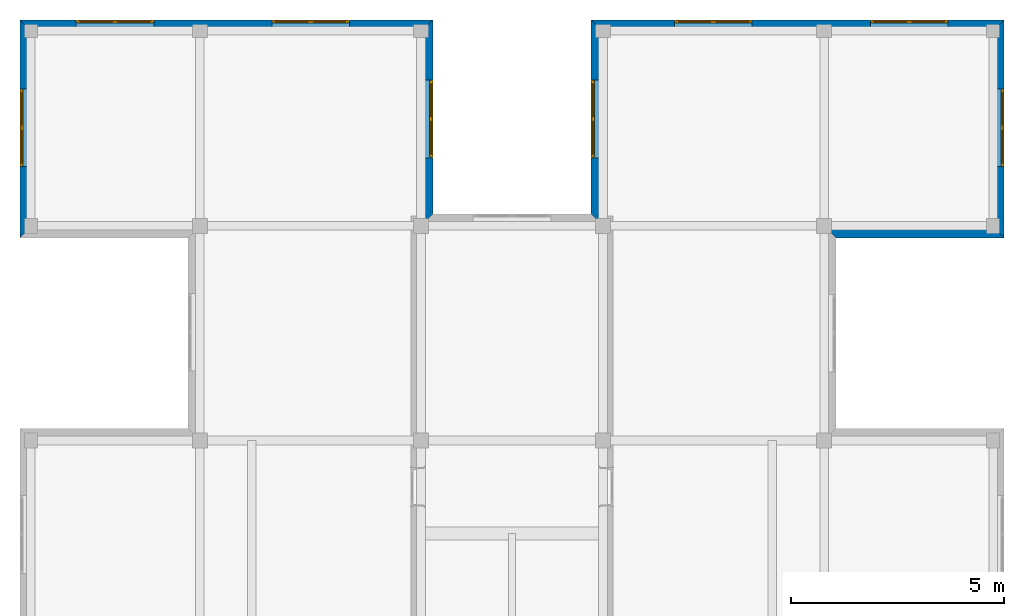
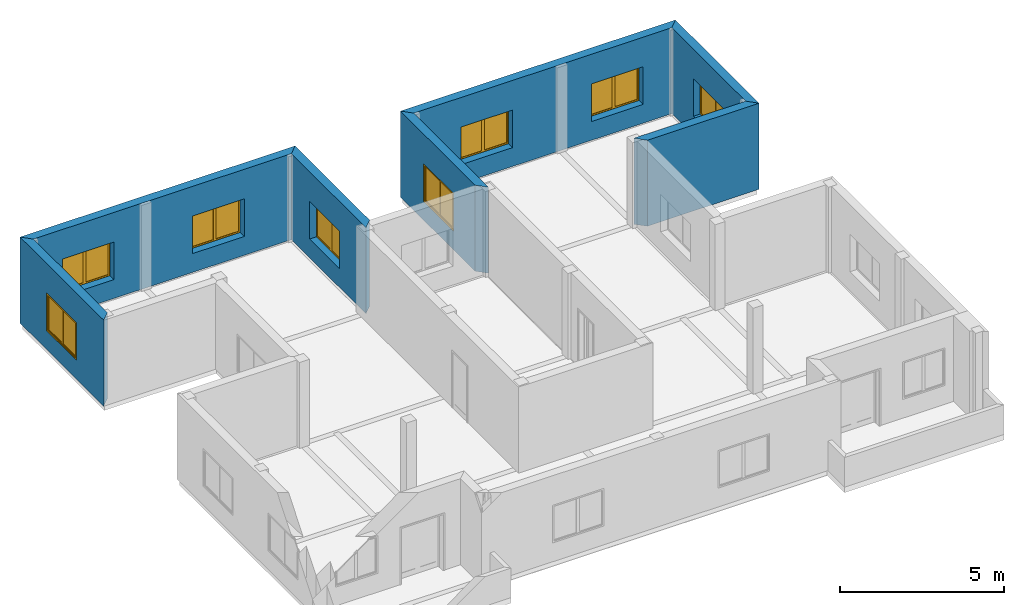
# One storey, part 6 of 6: 8 windows, 7 walls, 8 openings.
"""IFC2X3 building model written with IfcOpenShell, lengths in millimetres."""

import ifcopenshell
import ifcopenshell.guid

model = None  # the IFC model being written
_history = None  # IfcOwnerHistory: only IFC2X3 demands one
_inside = {}  # id of a spatial element -> (the spatial element, [elements in it])
_under = {}  # id of a project, library or spatial element -> (it, [spatial elements below it])
_declared = {}  # id of a project -> (the project, [libraries it declares])
_typed = {}  # id of a type object -> (the type object, [elements of that type])
_made_of = {}  # id of a material, layer set ... -> (it, [elements and type objects made of it])


def new_model(schema):
    """Start an empty IFC model of exactly this schema.

    Asked for "IFC4X3", IfcOpenShell would pick the latest addendum, in which some entities
    have other attributes; the version numbers below select the first issue.
    IFC2X3 requires an IfcOwnerHistory on every rooted entity: one is made here for all.
    """
    global model, _history
    if schema == "IFC4X3":
        model = ifcopenshell.file(schema_version=(4, 3, 0, 0))
    else:
        model = ifcopenshell.file(schema=schema)
    _inside.clear()
    _under.clear()
    _declared.clear()
    _typed.clear()
    _made_of.clear()
    _history = None
    if model.schema == "IFC2X3":
        org = make("IfcOrganization", Name="unknown")
        user = make(
            "IfcPersonAndOrganization",
            ThePerson=make("IfcPerson", FamilyName="unknown"),
            TheOrganization=org,
        )
        app = make(
            "IfcApplication",
            ApplicationDeveloper=org,
            Version="unknown",
            ApplicationFullName="unknown",
            ApplicationIdentifier="unknown",
        )
        _history = make(
            "IfcOwnerHistory",
            OwningUser=user,
            OwningApplication=app,
            ChangeAction="ADDED",
            CreationDate=0,
        )
    return model


def make(cls, **values):
    """One entity of the class cls with the attributes given. An attribute that is None is left unset."""
    return model.create_entity(
        cls, **{name: value for name, value in values.items() if value is not None}
    )


def entity(cls, *values):
    """Any entity or typed value of the class cls, its attributes in the order of the schema. None: left unset."""
    e = model.create_entity(cls)
    for i, value in enumerate(values):
        if value is not None:
            e[i] = value
    return e


def rooted(cls, **values):
    """An entity with a GlobalId (a new one), such as an element, a storey or a relation."""
    return make(cls, GlobalId=ifcopenshell.guid.new(), OwnerHistory=_history, **values)


def si_unit(unit_type, name, prefix=None):
    """IfcSIUnit, for example si_unit("LENGTHUNIT", "METRE", prefix="MILLI")."""
    return make("IfcSIUnit", UnitType=unit_type, Prefix=prefix, Name=name)


def converted_unit(unit_type, name, factor, base, dimensions=None, offset=None):
    """IfcConversionBasedUnit, such as the inch: factor (a typed value) times the base unit."""
    return make(
        "IfcConversionBasedUnit"
        if offset is None
        else "IfcConversionBasedUnitWithOffset",
        ConversionOffset=offset,
        Dimensions=None
        if dimensions is None
        else entity("IfcDimensionalExponents", *dimensions),
        UnitType=unit_type,
        Name=name,
        ConversionFactor=make(
            "IfcMeasureWithUnit", ValueComponent=factor, UnitComponent=base
        ),
    )


def assignment(units):
    """IfcUnitAssignment: the units of a project."""
    return None if units is None else make("IfcUnitAssignment", Units=units)


def point(xyz):
    """IfcCartesianPoint."""
    return None if xyz is None else make("IfcCartesianPoint", Coordinates=xyz)


def direction(xyz):
    """IfcDirection."""
    return None if xyz is None else make("IfcDirection", DirectionRatios=xyz)


def frame(location, z_axis=None, x_axis=None):
    """IfcAxis2Placement3D, a coordinate frame: its origin and axes. An axis left out is left unset."""
    return make(
        "IfcAxis2Placement3D",
        Location=point(location),
        Axis=direction(z_axis),
        RefDirection=direction(x_axis),
    )


def frame_2d(location, x_axis=None):
    """IfcAxis2Placement2D, a coordinate frame in the plane: its origin and x axis."""
    return make(
        "IfcAxis2Placement2D", Location=point(location), RefDirection=direction(x_axis)
    )


def origin_with_axes():
    """The frame at (0, 0, 0) with the z axis (0, 0, 1) and the x axis (1, 0, 0) written out."""
    return frame((0.0, 0.0, 0.0), z_axis=(0.0, 0.0, 1.0), x_axis=(1.0, 0.0, 0.0))


def origin_2d_with_axis():
    """The frame at (0, 0) in the plane with the x axis (1, 0) written out."""
    return frame_2d((0.0, 0.0), x_axis=(1.0, 0.0))


def place(relative_to, where):
    """IfcLocalPlacement: puts the frame where relative to a parent placement (None: the world)."""
    return make(
        "IfcLocalPlacement", PlacementRelTo=relative_to, RelativePlacement=where
    )


def context(
    kind, dimensions, precision=None, world=None, true_north=None, identifier=None
):
    """IfcGeometricRepresentationContext, for example the 3D "Model" context."""
    return make(
        "IfcGeometricRepresentationContext",
        ContextIdentifier=identifier,
        ContextType=kind,
        CoordinateSpaceDimension=dimensions,
        Precision=precision,
        WorldCoordinateSystem=world,
        TrueNorth=true_north,
    )


def subcontext(parent, identifier, kind, view, scale=None):
    """IfcGeometricRepresentationSubContext, for example "Body" below "Model"."""
    return make(
        "IfcGeometricRepresentationSubContext",
        ContextIdentifier=identifier,
        ContextType=kind,
        ParentContext=parent,
        TargetScale=scale,
        TargetView=view,
    )


def project(units=None, contexts=None):
    """IfcProject with its units and contexts."""
    return rooted(
        "IfcProject",
        Name="project",
        RepresentationContexts=contexts,
        UnitsInContext=assignment(units),
    )


def spatial(cls, under=None, at=None, **own):
    """A site, building, storey or space (cls), placed at a placement, below another one or the project."""
    s = rooted(cls, ObjectPlacement=at, **own)
    if under is not None:
        _under.setdefault(under.id(), (under, []))[1].append(s)
    return s


def polyline(points):
    """IfcPolyline through the points."""
    return make("IfcPolyline", Points=[point(p) for p in points])


def profile(cls, at=None, kind="AREA", **sizes):
    """A parametric profile (cls). Its sizes go by their IFC names, for example OverallWidth=200.0."""
    return make(cls, ProfileType=kind, Position=at, **sizes)


def rectangle(**sizes):
    """IfcRectangleProfileDef."""
    return profile("IfcRectangleProfileDef", **sizes)


def outline(outer, holes=None, kind="AREA"):
    """IfcArbitraryClosedProfileDef: a profile drawn as a closed curve; with holes, ...WithVoids."""
    if holes is None:
        return make("IfcArbitraryClosedProfileDef", ProfileType=kind, OuterCurve=outer)
    return make(
        "IfcArbitraryProfileDefWithVoids",
        ProfileType=kind,
        OuterCurve=outer,
        InnerCurves=holes,
    )


def extrude(swept, where, along, depth):
    """IfcExtrudedAreaSolid: the profile swept, set in the frame where, extruded along a direction by depth."""
    return make(
        "IfcExtrudedAreaSolid",
        SweptArea=swept,
        Position=where,
        ExtrudedDirection=direction(along),
        Depth=depth,
    )


def faces_of(points, faces, orient=None, outer=None):
    """IfcFace entities. A face is a list of loops; a loop is a list of indices into points, from 0.

    orient and outer hold one flag for each loop. By default every Orientation is true, the
    first loop of a face is its IfcFaceOuterBound and the others are IfcFaceBound.
    """
    made = []
    for i, loops in enumerate(faces):
        bounds = []
        for j, loop in enumerate(loops):
            is_outer = j == 0 if outer is None else outer[i][j]
            bounds.append(
                make(
                    "IfcFaceOuterBound" if is_outer else "IfcFaceBound",
                    Bound=make("IfcPolyLoop", Polygon=[points[k] for k in loop]),
                    Orientation=True if orient is None else orient[i][j],
                )
            )
        made.append(make("IfcFace", Bounds=bounds))
    return made


def faceted_brep(points, faces, orient=None, outer=None, voids=None):
    """IfcFacetedBrep: a solid bounded by flat faces; with voids (closed shells), ...WithVoids."""
    shared = [point(p) for p in points]
    hull = make("IfcClosedShell", CfsFaces=faces_of(shared, faces, orient, outer))
    if voids is None:
        return make("IfcFacetedBrep", Outer=hull)
    return make(
        "IfcFacetedBrepWithVoids",
        Outer=hull,
        Voids=[
            make(cls, CfsFaces=faces_of(shared, fs, o, b)) for cls, fs, o, b in voids
        ],
    )


def shape(context_of_items, identifier, shape_type, items):
    """IfcShapeRepresentation: the items that make up one representation, for example the "Body"."""
    return make(
        "IfcShapeRepresentation",
        ContextOfItems=context_of_items,
        RepresentationIdentifier=identifier,
        RepresentationType=shape_type,
        Items=items,
    )


def source(mapping_origin, context_of_items, identifier, shape_type, items):
    """IfcRepresentationMap: a shape defined once, which mapped items show again and again."""
    return make(
        "IfcRepresentationMap",
        MappingOrigin=mapping_origin,
        MappedRepresentation=shape(context_of_items, identifier, shape_type, items),
    )


def transform(
    local_origin,
    x_axis=None,
    y_axis=None,
    z_axis=None,
    scale=None,
    scale2=None,
    scale3=None,
    uniform=True,
):
    """IfcCartesianTransformationOperator3D, or its non-uniform kind. x_axis, y_axis, z_axis: its Axis1, 2, 3."""
    if uniform:
        return make(
            "IfcCartesianTransformationOperator3D",
            Axis1=direction(x_axis),
            Axis2=direction(y_axis),
            LocalOrigin=point(local_origin),
            Scale=scale,
            Axis3=direction(z_axis),
        )
    return make(
        "IfcCartesianTransformationOperator3DnonUniform",
        Axis1=direction(x_axis),
        Axis2=direction(y_axis),
        LocalOrigin=point(local_origin),
        Scale=scale,
        Axis3=direction(z_axis),
        Scale2=scale2,
        Scale3=scale3,
    )


def mapped(mapping_source, mapping_target):
    """IfcMappedItem: shows the shape of a source again, moved by a transform."""
    return make(
        "IfcMappedItem", MappingSource=mapping_source, MappingTarget=mapping_target
    )


def material(Name=None, Category=None):
    """IfcMaterial."""
    return make("IfcMaterial", Name=Name, Category=Category)


def layer(
    of_material, thickness, ventilated=None, Name=None, Category=None, Priority=None
):
    """IfcMaterialLayer: one layer of a wall or slab, of a material (None: an air gap)."""
    return make(
        "IfcMaterialLayer",
        Material=of_material,
        LayerThickness=thickness,
        IsVentilated=ventilated,
        Name=Name,
        Category=Category,
        Priority=Priority,
    )


def layer_set(layers, Name=None):
    """IfcMaterialLayerSet."""
    return make("IfcMaterialLayerSet", MaterialLayers=layers, LayerSetName=Name)


def layer_usage(for_layer_set, set_direction, sense, offset, extent=None):
    """IfcMaterialLayerSetUsage: how a layer set lies in its element."""
    return make(
        "IfcMaterialLayerSetUsage",
        ForLayerSet=for_layer_set,
        LayerSetDirection=set_direction,
        DirectionSense=sense,
        OffsetFromReferenceLine=offset,
        ReferenceExtent=extent,
    )


def made_of(thing, what):
    """Note that an element or type object is made of a material, layer set ...; save() writes the relation."""
    if what is not None:
        _made_of.setdefault(what.id(), (what, []))[1].append(thing)
    return thing


def type_object(cls, material=None, **own):
    """A type object (cls), such as IfcWallType, which elements share."""
    return made_of(rooted(cls, **own), material)


def element(
    cls,
    number,
    at=None,
    inside=None,
    cuts=None,
    type_object=None,
    material=None,
    context=None,
    identifier="Body",
    shape_type=None,
    held_by="IfcProductDefinitionShape",
    body=None,
    shapes=None,
    **own,
):
    """One element of the class cls, such as IfcWall. Its Tag is "e" and its number.

    at: its placement. inside: the storey or other place that contains it. cuts: it is an
    opening in that element (IfcRelVoidsElement). A single representation is given by context,
    identifier, shape_type and body (its items); several are given by shapes. held_by: the class
    of the entity that holds the representations. save() writes the other relations.
    """
    e = rooted(cls, Tag="e%d" % number, ObjectPlacement=at, **own)
    if body is not None:
        shapes = [shape(context, identifier, shape_type, body)]
    if shapes is not None:
        e.Representation = make(held_by, Representations=shapes)
    if inside is not None:
        _inside.setdefault(inside.id(), (inside, []))[1].append(e)
    if cuts is not None:
        rooted(
            "IfcRelVoidsElement", RelatingBuildingElement=cuts, RelatedOpeningElement=e
        )
    if type_object is not None:
        _typed.setdefault(type_object.id(), (type_object, []))[1].append(e)
    return made_of(e, material)


def fill(opening, filler):
    """IfcRelFillsElement: the door or window that sits in an opening."""
    return rooted(
        "IfcRelFillsElement",
        RelatingOpeningElement=opening,
        RelatedBuildingElement=filler,
    )


def aggregate(whole, parts):
    """IfcRelAggregates: a whole, such as a stair, and the parts it consists of."""
    return rooted("IfcRelAggregates", RelatingObject=whole, RelatedObjects=parts)


def save(model, path):
    """Write the relations noted so far, then the file.

    IfcRelAggregates (storeys below a building ...), IfcRelContainedInSpatialStructure (elements
    in a storey), IfcRelDefinesByType, IfcRelAssociatesMaterial and IfcRelDeclares: one each for
    every whole, place, type object, material and project.
    """
    for whole, parts in _under.values():
        aggregate(whole, parts)
    for where, things in _inside.values():
        rooted(
            "IfcRelContainedInSpatialStructure",
            RelatedElements=things,
            RelatingStructure=where,
        )
    for kind, things in _typed.values():
        rooted("IfcRelDefinesByType", RelatedObjects=things, RelatingType=kind)
    for what, things in _made_of.values():
        rooted("IfcRelAssociatesMaterial", RelatedObjects=things, RelatingMaterial=what)
    for by, libraries in _declared.values():
        rooted("IfcRelDeclares", RelatingContext=by, RelatedDefinitions=libraries)
    model.write(path)


model = new_model("IFC2X3")

# Units and contexts
model_context = context("Model", 3, precision=1e-05, world=origin_with_axes(), true_north=direction((0.0, 1.0)))
body_context = subcontext(model_context, "Body", "Model", "MODEL_VIEW")
ifc_project = project(units=[si_unit("LENGTHUNIT", "METRE", prefix="MILLI"), si_unit("AREAUNIT", "SQUARE_METRE"), si_unit("VOLUMEUNIT", "CUBIC_METRE"), converted_unit("PLANEANGLEUNIT", "DEGREE", entity("IfcPlaneAngleMeasure", 0.017453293), si_unit("PLANEANGLEUNIT", "RADIAN"), dimensions=[0, 0, 0, 0, 0, 0, 0]), si_unit("SOLIDANGLEUNIT", "STERADIAN"), si_unit("MASSUNIT", "GRAM"), si_unit("TIMEUNIT", "SECOND"), si_unit("THERMODYNAMICTEMPERATUREUNIT", "DEGREE_CELSIUS"), si_unit("LUMINOUSINTENSITYUNIT", "LUMEN")], contexts=[model_context])

# Site, building, storey
site_placement = place(None, origin_with_axes())
site = spatial("IfcSite", under=ifc_project, at=site_placement, Name="Sitio", CompositionType="ELEMENT")
building_placement = place(site_placement, origin_with_axes())
building = spatial("IfcBuilding", under=site, at=building_placement, Name="Ejemplo_StruBIM", CompositionType="ELEMENT")
storey_placement = place(building_placement, frame((0.0, 0.0, 12801.6), z_axis=(0.0, 0.0, 1.0), x_axis=(1.0, 0.0, 0.0)))
storey = spatial("IfcBuildingStorey", under=building, at=storey_placement, Name="Fourth floor", CompositionType="ELEMENT", Elevation=12801.6)

# Wall, opening, window
ifc_material_1 = material(Name="Bloque mampostería")
ifc_layer = layer(ifc_material_1, 300.0, ventilated="UNKNOWN")
ifc_layer_set = layer_set([ifc_layer], Name="Bloque mampostería 300")
ifc_layer_usage_1 = layer_usage(ifc_layer_set, "AXIS2", "POSITIVE", 0.0)
wall_type = type_object("IfcWallType", Name="Bloque mampostería 11 3/4\"", PredefinedType="NOTDEFINED")
wall_1_placement = place(storey_placement, frame((-254.0, 18846.8, 0.0), z_axis=(0.0, 0.0, 1.0), x_axis=(0.0, -1.0, 0.0)))
wall_1 = element("IfcWallStandardCase", 1, at=wall_1_placement, inside=storey, type_object=wall_type, material=ifc_layer_usage_1, Name="Muro-006", context=body_context, shape_type="SweptSolid", body=[
    extrude(outline(polyline([(0.0, 0.0), (5105.4, 0.0), (4805.4, 300.0), (300.0, 300.0), (0.0, 0.0)])), origin_with_axes(), (0.0, 0.0, 1.0), 3200.4),
])
opening_1_placement = place(wall_1_placement, frame((2522.9, 0.0, 700.0), z_axis=(0.0, 0.0, 1.0), x_axis=(1.0, 0.0, 0.0)))
opening_1 = element("IfcOpeningElement", 2, at=opening_1_placement, cuts=wall_1, Name="V05", context=body_context, shape_type="SweptSolid", body=[
    extrude(rectangle(XDim=1820.0, YDim=1400.0, at=origin_2d_with_axis()), frame((0.0, 300.0, 700.0), z_axis=(0.0, 1.0, 0.0), x_axis=(1.0, 0.0, 0.0)), (0.0, 0.0, -1.0), 300.0),
])
ifc_material_2 = material(Name="Fondo")
window_style = type_object("IfcWindowStyle", Name="Ventana Doble Hoja 16", ConstructionType="NOTDEFINED", OperationType="DOUBLE_PANEL_HORIZONTAL", ParameterTakesPrecedence=False, Sizeable=False)
shared_shape_1 = source(origin_with_axes(), body_context, "Body", "Brep", [
    faceted_brep([(885.0, -50.0, 1350.0), (910.0, -50.0, 1350.0), (910.0, 0.0, 1350.0), (860.0, 0.0, 1350.0), (860.0, -25.0, 1350.0), (885.0, -25.0, 1350.0), (885.0, -50.0, 50.0), (910.0, -50.0, 50.0), (910.0, 0.0, 50.0), (860.0, 0.0, 50.0), (860.0, -25.0, 50.0), (885.0, -25.0, 50.0)], [[[0, 1, 2, 3, 4, 5]], [[6, 7, 1, 0]], [[1, 7, 8, 2]], [[2, 8, 9, 3]], [[4, 3, 9, 10]], [[10, 11, 5, 4]], [[5, 11, 6, 0]], [[11, 10, 9, 8, 7, 6]]]),
    faceted_brep([(-860.0, -25.0, 1350.0), (-860.0, 0.0, 1350.0), (-910.0, 0.0, 1350.0), (-910.0, -50.0, 1350.0), (-885.0, -50.0, 1350.0), (-885.0, -25.0, 1350.0), (-860.0, -25.0, 50.0), (-860.0, 0.0, 50.0), (-910.0, 0.0, 50.0), (-910.0, -50.0, 50.0), (-885.0, -50.0, 50.0), (-885.0, -25.0, 50.0)], [[[0, 1, 2, 3, 4, 5]], [[6, 7, 1, 0]], [[8, 2, 1, 7]], [[9, 3, 2, 8]], [[4, 3, 9, 10]], [[10, 11, 5, 4]], [[5, 11, 6, 0]], [[11, 10, 9, 8, 7, 6]]]),
    faceted_brep([(-860.0, -25.0, 50.0), (-860.0, 0.0, 50.0), (-910.0, 0.0, 50.0), (-910.0, -50.0, 50.0), (-885.0, -50.0, 50.0), (-885.0, -25.0, 50.0), (860.0, -25.0, 50.0), (860.0, 0.0, 50.0), (910.0, 0.0, 50.0), (910.0, 0.0, 0.0), (-910.0, 0.0, 0.0), (-910.0, -50.0, 0.0), (885.0, -50.0, 25.0), (-885.0, -50.0, 25.0), (910.0, -50.0, 0.0), (910.0, -50.0, 50.0), (885.0, -50.0, 50.0), (-885.0, -25.0, 25.0), (885.0, -25.0, 25.0), (885.0, -25.0, 50.0)], [[[0, 1, 2, 3, 4, 5]], [[6, 7, 1, 0]], [[8, 9, 10, 2, 1, 7]], [[11, 3, 2, 10]], [[12, 13, 4, 3, 11, 14, 15, 16]], [[13, 17, 5, 4]], [[5, 17, 18, 19, 6, 0]], [[19, 16, 15, 8, 7, 6]], [[15, 14, 9, 8]], [[14, 11, 10, 9]], [[12, 18, 17, 13]], [[19, 18, 12, 16]]]),
    faceted_brep([(885.0, -50.0, 1350.0), (910.0, -50.0, 1350.0), (910.0, -50.0, 1400.0), (-910.0, -50.0, 1400.0), (-910.0, -50.0, 1350.0), (-885.0, -50.0, 1350.0), (-885.0, -50.0, 1375.0), (885.0, -50.0, 1375.0), (885.0, -25.0, 1350.0), (860.0, -25.0, 1350.0), (860.0, 0.0, 1350.0), (910.0, 0.0, 1350.0), (910.0, 0.0, 1400.0), (-910.0, 0.0, 1400.0), (-910.0, 0.0, 1350.0), (-885.0, -25.0, 1350.0), (-860.0, 0.0, 1350.0), (-860.0, -25.0, 1350.0), (-885.0, -25.0, 1375.0), (885.0, -25.0, 1375.0)], [[[0, 1, 2, 3, 4, 5, 6, 7]], [[8, 9, 10, 11, 1, 0]], [[2, 1, 11, 12]], [[3, 2, 12, 13]], [[4, 3, 13, 14]], [[15, 5, 4, 14, 16, 17]], [[5, 15, 18, 6]], [[6, 18, 19, 7]], [[7, 19, 8, 0]], [[17, 9, 8, 19, 18, 15]], [[17, 16, 10, 9]], [[14, 13, 12, 11, 10, 16]]]),
    faceted_brep([(835.0, -25.0, 1325.0), (835.0, -75.0, 1325.0), (885.0, -75.0, 1325.0), (885.0, -25.0, 1325.0), (835.0, -25.0, 75.0), (835.0, -75.0, 75.0), (885.0, -75.0, 75.0), (885.0, -25.0, 75.0)], [[[0, 1, 2, 3]], [[4, 5, 1, 0]], [[1, 5, 6, 2]], [[3, 2, 6, 7]], [[0, 3, 7, 4]], [[7, 6, 5, 4]]]),
    faceted_brep([(50.0, -25.0, 75.0), (50.0, -75.0, 75.0), (0.0, -75.0, 75.0), (0.0, -25.0, 75.0), (50.0, -25.0, 1325.0), (50.0, -75.0, 1325.0), (0.0, -75.0, 1325.0), (0.0, -25.0, 1325.0)], [[[0, 1, 2, 3]], [[4, 5, 1, 0]], [[1, 5, 6, 2]], [[3, 2, 6, 7]], [[0, 3, 7, 4]], [[7, 6, 5, 4]]]),
    faceted_brep([(0.0, -25.0, 25.0), (0.0, -75.0, 25.0), (0.0, -75.0, 75.0), (0.0, -25.0, 75.0), (885.0, -25.0, 25.0), (885.0, -75.0, 25.0), (885.0, -75.0, 75.0), (835.0, -75.0, 75.0), (50.0, -75.0, 75.0), (50.0, -25.0, 75.0), (835.0, -25.0, 75.0), (885.0, -25.0, 75.0)], [[[0, 1, 2, 3]], [[4, 5, 1, 0]], [[1, 5, 6, 7, 8, 2]], [[3, 2, 8, 9]], [[0, 3, 9, 10, 11, 4]], [[11, 6, 5, 4]], [[10, 7, 6, 11]], [[9, 8, 7, 10]]]),
    faceted_brep([(885.0, -25.0, 1375.0), (885.0, -75.0, 1375.0), (885.0, -75.0, 1325.0), (885.0, -25.0, 1325.0), (0.0, -25.0, 1375.0), (0.0, -75.0, 1375.0), (0.0, -75.0, 1325.0), (50.0, -75.0, 1325.0), (835.0, -75.0, 1325.0), (835.0, -25.0, 1325.0), (50.0, -25.0, 1325.0), (0.0, -25.0, 1325.0)], [[[0, 1, 2, 3]], [[4, 5, 1, 0]], [[1, 5, 6, 7, 8, 2]], [[3, 2, 8, 9]], [[0, 3, 9, 10, 11, 4]], [[11, 6, 5, 4]], [[10, 7, 6, 11]], [[9, 8, 7, 10]]]),
    faceted_brep([(835.0, -40.0, 75.0), (835.0, -60.0, 75.0), (50.0, -60.0, 75.0), (50.0, -40.0, 75.0), (835.0, -40.0, 1325.0), (835.0, -60.0, 1325.0), (50.0, -60.0, 1325.0), (50.0, -40.0, 1325.0)], [[[0, 1, 2, 3]], [[4, 5, 1, 0]], [[1, 5, 6, 2]], [[3, 2, 6, 7]], [[0, 3, 7, 4]], [[7, 6, 5, 4]]]),
    faceted_brep([(-50.0, -25.0, 1325.0), (-50.0, -75.0, 1325.0), (0.0, -75.0, 1325.0), (0.0, -25.0, 1325.0), (-50.0, -25.0, 75.0), (-50.0, -75.0, 75.0), (0.0, -75.0, 75.0), (0.0, -25.0, 75.0)], [[[0, 1, 2, 3]], [[4, 5, 1, 0]], [[1, 5, 6, 2]], [[3, 2, 6, 7]], [[0, 3, 7, 4]], [[7, 6, 5, 4]]]),
    faceted_brep([(-835.0, -25.0, 75.0), (-835.0, -75.0, 75.0), (-885.0, -75.0, 75.0), (-885.0, -25.0, 75.0), (-835.0, -25.0, 1325.0), (-835.0, -75.0, 1325.0), (-885.0, -75.0, 1325.0), (-885.0, -25.0, 1325.0)], [[[0, 1, 2, 3]], [[4, 5, 1, 0]], [[1, 5, 6, 2]], [[3, 2, 6, 7]], [[0, 3, 7, 4]], [[7, 6, 5, 4]]]),
    faceted_brep([(-885.0, -25.0, 25.0), (-885.0, -75.0, 25.0), (-885.0, -75.0, 75.0), (-885.0, -25.0, 75.0), (0.0, -25.0, 25.0), (0.0, -75.0, 25.0), (0.0, -75.0, 75.0), (-50.0, -75.0, 75.0), (-835.0, -75.0, 75.0), (-835.0, -25.0, 75.0), (-50.0, -25.0, 75.0), (0.0, -25.0, 75.0)], [[[0, 1, 2, 3]], [[4, 5, 1, 0]], [[1, 5, 6, 7, 8, 2]], [[3, 2, 8, 9]], [[0, 3, 9, 10, 11, 4]], [[11, 6, 5, 4]], [[10, 7, 6, 11]], [[9, 8, 7, 10]]]),
    faceted_brep([(0.0, -25.0, 1375.0), (0.0, -75.0, 1375.0), (0.0, -75.0, 1325.0), (0.0, -25.0, 1325.0), (-885.0, -25.0, 1375.0), (-885.0, -75.0, 1375.0), (-885.0, -75.0, 1325.0), (-835.0, -75.0, 1325.0), (-50.0, -75.0, 1325.0), (-50.0, -25.0, 1325.0), (-835.0, -25.0, 1325.0), (-885.0, -25.0, 1325.0)], [[[0, 1, 2, 3]], [[4, 5, 1, 0]], [[1, 5, 6, 7, 8, 2]], [[3, 2, 8, 9]], [[0, 3, 9, 10, 11, 4]], [[11, 6, 5, 4]], [[10, 7, 6, 11]], [[9, 8, 7, 10]]]),
    faceted_brep([(-50.0, -40.0, 75.0), (-50.0, -60.0, 75.0), (-835.0, -60.0, 75.0), (-835.0, -40.0, 75.0), (-50.0, -40.0, 1325.0), (-50.0, -60.0, 1325.0), (-835.0, -60.0, 1325.0), (-835.0, -40.0, 1325.0)], [[[0, 1, 2, 3]], [[4, 5, 1, 0]], [[1, 5, 6, 2]], [[3, 2, 6, 7]], [[0, 3, 7, 4]], [[7, 6, 5, 4]]]),
])
window_1_placement = place(opening_1_placement, frame((910.0, 0.0, 0.0), z_axis=(0.0, 0.0, 1.0), x_axis=(-1.0, 0.0, 0.0)))
window_1 = element("IfcWindow", 3, at=window_1_placement, inside=storey, type_object=window_style, material=ifc_material_2, Name="V05", OverallHeight=1400.0, OverallWidth=1820.0, context=body_context, shape_type="MappedRepresentation", body=[
    mapped(shared_shape_1, transform((910.0, 0.0, 0.0))),
])
fill(opening_1, window_1)

# Wall, openings, windows
ifc_layer_usage_2 = layer_usage(ifc_layer_set, "AXIS2", "POSITIVE", 0.0)
wall_2_placement = place(storey_placement, frame((9423.4, 18846.8, 0.0), z_axis=(0.0, 0.0, 1.0), x_axis=(-1.0, 0.0, 0.0)))
wall_2 = element("IfcWallStandardCase", 4, at=wall_2_placement, inside=storey, type_object=wall_type, material=ifc_layer_usage_2, Name="Muro-007", context=body_context, shape_type="SweptSolid", body=[
    extrude(outline(polyline([(0.0, 0.0), (9677.4, 0.0), (9377.4, 300.0), (300.0, 300.0), (0.0, 0.0)])), origin_with_axes(), (0.0, 0.0, 1.0), 3200.4),
])
opening_2_placement = place(wall_2_placement, frame((2865.8, 0.0, 700.0), z_axis=(0.0, 0.0, 1.0), x_axis=(1.0, 0.0, 0.0)))
opening_2 = element("IfcOpeningElement", 5, at=opening_2_placement, cuts=wall_2, Name="V03", context=body_context, shape_type="SweptSolid", body=[
    extrude(rectangle(XDim=1820.0, YDim=1400.0, at=origin_2d_with_axis()), frame((0.0, 300.0, 700.0), z_axis=(0.0, 1.0, 0.0), x_axis=(1.0, 0.0, 0.0)), (0.0, 0.0, -1.0), 300.0),
])
opening_3_placement = place(wall_2_placement, frame((7450.5, 0.0, 700.0), z_axis=(0.0, 0.0, 1.0), x_axis=(1.0, 0.0, 0.0)))
opening_3 = element("IfcOpeningElement", 6, at=opening_3_placement, cuts=wall_2, Name="V04", context=body_context, shape_type="SweptSolid", body=[
    extrude(rectangle(XDim=1820.0, YDim=1400.0, at=origin_2d_with_axis()), frame((0.0, 300.0, 700.0), z_axis=(0.0, -1.0, 0.0), x_axis=(1.0, 0.0, 0.0)), (0.0, 0.0, 1.0), 300.0),
])
shared_shape_2 = source(origin_with_axes(), body_context, "Body", "Brep", [
    faceted_brep([(-885.0, -50.0, 1350.0), (-885.0, -25.0, 1350.0), (-860.0, -25.0, 1350.0), (-860.0, 0.0, 1350.0), (-910.0, 0.0, 1350.0), (-910.0, -50.0, 1350.0), (-885.0, -50.0, 50.0), (-885.0, -25.0, 50.0), (-860.0, -25.0, 50.0), (-860.0, 0.0, 50.0), (-910.0, 0.0, 50.0), (-910.0, -50.0, 50.0)], [[[0, 1, 2, 3, 4, 5]], [[1, 0, 6, 7]], [[8, 2, 1, 7]], [[2, 8, 9, 3]], [[4, 3, 9, 10]], [[5, 4, 10, 11]], [[6, 0, 5, 11]], [[7, 6, 11, 10, 9, 8]]]),
    faceted_brep([(860.0, -25.0, 1350.0), (885.0, -25.0, 1350.0), (885.0, -50.0, 1350.0), (910.0, -50.0, 1350.0), (910.0, 0.0, 1350.0), (860.0, 0.0, 1350.0), (860.0, -25.0, 50.0), (885.0, -25.0, 50.0), (885.0, -50.0, 50.0), (910.0, -50.0, 50.0), (910.0, 0.0, 50.0), (860.0, 0.0, 50.0)], [[[0, 1, 2, 3, 4, 5]], [[1, 0, 6, 7]], [[8, 2, 1, 7]], [[2, 8, 9, 3]], [[9, 10, 4, 3]], [[10, 11, 5, 4]], [[6, 0, 5, 11]], [[7, 6, 11, 10, 9, 8]]]),
    faceted_brep([(860.0, -25.0, 50.0), (885.0, -25.0, 50.0), (885.0, -50.0, 50.0), (910.0, -50.0, 50.0), (910.0, 0.0, 50.0), (860.0, 0.0, 50.0), (-860.0, -25.0, 50.0), (-885.0, -25.0, 50.0), (-885.0, -25.0, 25.0), (885.0, -25.0, 25.0), (885.0, -50.0, 25.0), (-885.0, -50.0, 25.0), (-885.0, -50.0, 50.0), (-910.0, -50.0, 50.0), (-910.0, -50.0, 0.0), (910.0, -50.0, 0.0), (910.0, 0.0, 0.0), (-910.0, 0.0, 50.0), (-860.0, 0.0, 50.0), (-910.0, 0.0, 0.0)], [[[0, 1, 2, 3, 4, 5]], [[1, 0, 6, 7, 8, 9]], [[10, 2, 1, 9]], [[11, 12, 13, 14, 15, 3, 2, 10]], [[15, 16, 4, 3]], [[17, 18, 5, 4, 16, 19]], [[6, 0, 5, 18]], [[7, 6, 18, 17, 13, 12]], [[7, 12, 11, 8]], [[11, 10, 9, 8]], [[13, 17, 19, 14]], [[14, 19, 16, 15]]]),
    faceted_brep([(-885.0, -50.0, 1350.0), (-885.0, -50.0, 1375.0), (885.0, -50.0, 1375.0), (885.0, -50.0, 1350.0), (910.0, -50.0, 1350.0), (910.0, -50.0, 1400.0), (-910.0, -50.0, 1400.0), (-910.0, -50.0, 1350.0), (-885.0, -25.0, 1350.0), (-885.0, -25.0, 1375.0), (885.0, -25.0, 1375.0), (885.0, -25.0, 1350.0), (860.0, -25.0, 1350.0), (860.0, 0.0, 1350.0), (910.0, 0.0, 1350.0), (910.0, 0.0, 1400.0), (-910.0, 0.0, 1400.0), (-910.0, 0.0, 1350.0), (-860.0, 0.0, 1350.0), (-860.0, -25.0, 1350.0)], [[[0, 1, 2, 3, 4, 5, 6, 7]], [[1, 0, 8, 9]], [[2, 1, 9, 10]], [[3, 2, 10, 11]], [[11, 12, 13, 14, 4, 3]], [[4, 14, 15, 5]], [[5, 15, 16, 6]], [[6, 16, 17, 7]], [[8, 0, 7, 17, 18, 19]], [[12, 11, 10, 9, 8, 19]], [[12, 19, 18, 13]], [[14, 13, 18, 17, 16, 15]]]),
    faceted_brep([(-835.0, -25.0, 1325.0), (-885.0, -25.0, 1325.0), (-885.0, -75.0, 1325.0), (-835.0, -75.0, 1325.0), (-835.0, -25.0, 75.0), (-885.0, -25.0, 75.0), (-885.0, -75.0, 75.0), (-835.0, -75.0, 75.0)], [[[0, 1, 2, 3]], [[0, 4, 5, 1]], [[1, 5, 6, 2]], [[3, 2, 6, 7]], [[4, 0, 3, 7]], [[5, 4, 7, 6]]]),
    faceted_brep([(-50.0, -25.0, 75.0), (0.0, -25.0, 75.0), (0.0, -75.0, 75.0), (-50.0, -75.0, 75.0), (-50.0, -25.0, 1325.0), (0.0, -25.0, 1325.0), (0.0, -75.0, 1325.0), (-50.0, -75.0, 1325.0)], [[[0, 1, 2, 3]], [[0, 4, 5, 1]], [[1, 5, 6, 2]], [[3, 2, 6, 7]], [[4, 0, 3, 7]], [[5, 4, 7, 6]]]),
    faceted_brep([(0.0, -25.0, 25.0), (0.0, -25.0, 75.0), (0.0, -75.0, 75.0), (0.0, -75.0, 25.0), (-885.0, -25.0, 25.0), (-885.0, -25.0, 75.0), (-835.0, -25.0, 75.0), (-50.0, -25.0, 75.0), (-50.0, -75.0, 75.0), (-835.0, -75.0, 75.0), (-885.0, -75.0, 75.0), (-885.0, -75.0, 25.0)], [[[0, 1, 2, 3]], [[0, 4, 5, 6, 7, 1]], [[1, 7, 8, 2]], [[3, 2, 8, 9, 10, 11]], [[4, 0, 3, 11]], [[5, 4, 11, 10]], [[6, 5, 10, 9]], [[7, 6, 9, 8]]]),
    faceted_brep([(-885.0, -25.0, 1375.0), (-885.0, -25.0, 1325.0), (-885.0, -75.0, 1325.0), (-885.0, -75.0, 1375.0), (0.0, -25.0, 1375.0), (0.0, -25.0, 1325.0), (-50.0, -25.0, 1325.0), (-835.0, -25.0, 1325.0), (-835.0, -75.0, 1325.0), (-50.0, -75.0, 1325.0), (0.0, -75.0, 1325.0), (0.0, -75.0, 1375.0)], [[[0, 1, 2, 3]], [[0, 4, 5, 6, 7, 1]], [[1, 7, 8, 2]], [[3, 2, 8, 9, 10, 11]], [[4, 0, 3, 11]], [[5, 4, 11, 10]], [[6, 5, 10, 9]], [[7, 6, 9, 8]]]),
    faceted_brep([(-835.0, -40.0, 75.0), (-50.0, -40.0, 75.0), (-50.0, -60.0, 75.0), (-835.0, -60.0, 75.0), (-835.0, -40.0, 1325.0), (-50.0, -40.0, 1325.0), (-50.0, -60.0, 1325.0), (-835.0, -60.0, 1325.0)], [[[0, 1, 2, 3]], [[0, 4, 5, 1]], [[1, 5, 6, 2]], [[3, 2, 6, 7]], [[4, 0, 3, 7]], [[5, 4, 7, 6]]]),
    faceted_brep([(50.0, -25.0, 1325.0), (0.0, -25.0, 1325.0), (0.0, -75.0, 1325.0), (50.0, -75.0, 1325.0), (50.0, -25.0, 75.0), (0.0, -25.0, 75.0), (0.0, -75.0, 75.0), (50.0, -75.0, 75.0)], [[[0, 1, 2, 3]], [[0, 4, 5, 1]], [[1, 5, 6, 2]], [[3, 2, 6, 7]], [[4, 0, 3, 7]], [[5, 4, 7, 6]]]),
    faceted_brep([(835.0, -25.0, 75.0), (885.0, -25.0, 75.0), (885.0, -75.0, 75.0), (835.0, -75.0, 75.0), (835.0, -25.0, 1325.0), (885.0, -25.0, 1325.0), (885.0, -75.0, 1325.0), (835.0, -75.0, 1325.0)], [[[0, 1, 2, 3]], [[0, 4, 5, 1]], [[1, 5, 6, 2]], [[3, 2, 6, 7]], [[4, 0, 3, 7]], [[5, 4, 7, 6]]]),
    faceted_brep([(885.0, -25.0, 25.0), (885.0, -25.0, 75.0), (885.0, -75.0, 75.0), (885.0, -75.0, 25.0), (0.0, -25.0, 25.0), (0.0, -25.0, 75.0), (50.0, -25.0, 75.0), (835.0, -25.0, 75.0), (835.0, -75.0, 75.0), (50.0, -75.0, 75.0), (0.0, -75.0, 75.0), (0.0, -75.0, 25.0)], [[[0, 1, 2, 3]], [[0, 4, 5, 6, 7, 1]], [[1, 7, 8, 2]], [[3, 2, 8, 9, 10, 11]], [[4, 0, 3, 11]], [[5, 4, 11, 10]], [[6, 5, 10, 9]], [[7, 6, 9, 8]]]),
    faceted_brep([(0.0, -25.0, 1375.0), (0.0, -25.0, 1325.0), (0.0, -75.0, 1325.0), (0.0, -75.0, 1375.0), (885.0, -25.0, 1375.0), (885.0, -25.0, 1325.0), (835.0, -25.0, 1325.0), (50.0, -25.0, 1325.0), (50.0, -75.0, 1325.0), (835.0, -75.0, 1325.0), (885.0, -75.0, 1325.0), (885.0, -75.0, 1375.0)], [[[0, 1, 2, 3]], [[0, 4, 5, 6, 7, 1]], [[1, 7, 8, 2]], [[3, 2, 8, 9, 10, 11]], [[4, 0, 3, 11]], [[5, 4, 11, 10]], [[6, 5, 10, 9]], [[7, 6, 9, 8]]]),
    faceted_brep([(50.0, -40.0, 75.0), (835.0, -40.0, 75.0), (835.0, -60.0, 75.0), (50.0, -60.0, 75.0), (50.0, -40.0, 1325.0), (835.0, -40.0, 1325.0), (835.0, -60.0, 1325.0), (50.0, -60.0, 1325.0)], [[[0, 1, 2, 3]], [[0, 4, 5, 1]], [[1, 5, 6, 2]], [[3, 2, 6, 7]], [[4, 0, 3, 7]], [[5, 4, 7, 6]]]),
])
window_2_placement = place(opening_3_placement, frame((910.0, 0.0, 0.0), z_axis=(0.0, 0.0, 1.0), x_axis=(-1.0, 0.0, 0.0)))
window_2 = element("IfcWindow", 7, at=window_2_placement, inside=storey, type_object=window_style, material=ifc_material_2, Name="V04", OverallHeight=1400.0, OverallWidth=1820.0, context=body_context, shape_type="MappedRepresentation", body=[
    mapped(shared_shape_2, transform((910.0, 0.0, 0.0))),
])
fill(opening_3, window_2)
window_3_placement = place(opening_2_placement, frame((910.0, 0.0, 0.0), z_axis=(0.0, 0.0, 1.0), x_axis=(-1.0, 0.0, 0.0)))
window_3 = element("IfcWindow", 8, at=window_3_placement, inside=storey, type_object=window_style, material=ifc_material_2, Name="V03", OverallHeight=1400.0, OverallWidth=1820.0, context=body_context, shape_type="MappedRepresentation", body=[
    mapped(shared_shape_1, transform((910.0, 0.0, 0.0))),
])
fill(opening_2, window_3)

# Wall, opening, window
ifc_layer_usage_3 = layer_usage(ifc_layer_set, "AXIS2", "POSITIVE", 0.0)
wall_3_placement = place(storey_placement, frame((9423.4, 14300.2, 0.0), z_axis=(0.0, 0.0, 1.0), x_axis=(0.0, 1.0, 0.0)))
wall_3 = element("IfcWallStandardCase", 9, at=wall_3_placement, inside=storey, type_object=wall_type, material=ifc_layer_usage_3, Name="Muro-009", context=body_context, shape_type="SweptSolid", body=[
    extrude(outline(polyline([(0.0, 0.0), (4546.6, 0.0), (4246.6, 300.0), (-300.0, 300.0), (0.0, 0.0)])), origin_with_axes(), (0.0, 0.0, 1.0), 3200.4),
])
opening_4_placement = place(wall_3_placement, frame((2226.9, 0.0, 700.0), z_axis=(0.0, 0.0, 1.0), x_axis=(1.0, 0.0, 0.0)))
opening_4 = element("IfcOpeningElement", 10, at=opening_4_placement, cuts=wall_3, Name="V08", context=body_context, shape_type="SweptSolid", body=[
    extrude(rectangle(XDim=1820.0, YDim=1400.0, at=origin_2d_with_axis()), frame((0.0, 300.0, 700.0), z_axis=(0.0, -1.0, 0.0), x_axis=(1.0, 0.0, 0.0)), (0.0, 0.0, 1.0), 300.0),
])
window_4_placement = place(opening_4_placement, frame((910.0, 0.0, 0.0), z_axis=(0.0, 0.0, 1.0), x_axis=(-1.0, 0.0, 0.0)))
window_4 = element("IfcWindow", 11, at=window_4_placement, inside=storey, type_object=window_style, material=ifc_material_2, Name="V08", OverallHeight=1400.0, OverallWidth=1820.0, context=body_context, shape_type="MappedRepresentation", body=[
    mapped(shared_shape_2, transform((910.0, 0.0, 0.0))),
])
fill(opening_4, window_4)

ifc_layer_usage_4 = layer_usage(ifc_layer_set, "AXIS2", "POSITIVE", 0.0)
wall_4_placement = place(storey_placement, frame((13131.8, 18846.8, 0.0), z_axis=(0.0, 0.0, 1.0), x_axis=(0.0, -1.0, 0.0)))
wall_4 = element("IfcWallStandardCase", 12, at=wall_4_placement, inside=storey, type_object=wall_type, material=ifc_layer_usage_4, Name="Muro-010", context=body_context, shape_type="SweptSolid", body=[
    extrude(outline(polyline([(0.0, 0.0), (4546.6, 0.0), (4846.6, 300.0), (300.0, 300.0), (0.0, 0.0)])), origin_with_axes(), (0.0, 0.0, 1.0), 3200.4),
])
opening_5_placement = place(wall_4_placement, frame((2319.7, 0.0, 700.0), z_axis=(0.0, 0.0, 1.0), x_axis=(1.0, 0.0, 0.0)))
opening_5 = element("IfcOpeningElement", 13, at=opening_5_placement, cuts=wall_4, Name="V09", context=body_context, shape_type="SweptSolid", body=[
    extrude(rectangle(XDim=1820.0, YDim=1400.0, at=origin_2d_with_axis()), frame((0.0, 300.0, 700.0), z_axis=(0.0, 1.0, 0.0), x_axis=(1.0, 0.0, 0.0)), (0.0, 0.0, -1.0), 300.0),
])
window_5_placement = place(opening_5_placement, frame((910.0, 0.0, 0.0), z_axis=(0.0, 0.0, 1.0), x_axis=(-1.0, 0.0, 0.0)))
window_5 = element("IfcWindow", 14, at=window_5_placement, inside=storey, type_object=window_style, material=ifc_material_2, Name="V09", OverallHeight=1400.0, OverallWidth=1820.0, context=body_context, shape_type="MappedRepresentation", body=[
    mapped(shared_shape_1, transform((910.0, 0.0, 0.0))),
])
fill(opening_5, window_5)

# Wall, openings, windows
ifc_layer_usage_5 = layer_usage(ifc_layer_set, "AXIS2", "POSITIVE", 0.0)
wall_5_placement = place(storey_placement, frame((22809.2, 18846.8, 0.0), z_axis=(0.0, 0.0, 1.0), x_axis=(-1.0, 0.0, 0.0)))
wall_5 = element("IfcWallStandardCase", 15, at=wall_5_placement, inside=storey, type_object=wall_type, material=ifc_layer_usage_5, Name="Muro-011", context=body_context, shape_type="SweptSolid", body=[
    extrude(outline(polyline([(0.0, 0.0), (9677.4, 0.0), (9377.4, 300.0), (300.0, 300.0), (0.0, 0.0)])), origin_with_axes(), (0.0, 0.0, 1.0), 3200.4),
])
opening_6_placement = place(wall_5_placement, frame((6811.6, 0.0, 700.0), z_axis=(0.0, 0.0, 1.0), x_axis=(1.0, 0.0, 0.0)))
opening_6 = element("IfcOpeningElement", 16, at=opening_6_placement, cuts=wall_5, Name="V11", context=body_context, shape_type="SweptSolid", body=[
    extrude(rectangle(XDim=1820.0, YDim=1400.0, at=origin_2d_with_axis()), frame((0.0, 300.0, 700.0), z_axis=(0.0, 1.0, 0.0), x_axis=(1.0, 0.0, 0.0)), (0.0, 0.0, -1.0), 300.0),
])
opening_7_placement = place(wall_5_placement, frame((2218.1, 0.0, 700.0), z_axis=(0.0, 0.0, 1.0), x_axis=(1.0, 0.0, 0.0)))
opening_7 = element("IfcOpeningElement", 17, at=opening_7_placement, cuts=wall_5, Name="V12", context=body_context, shape_type="SweptSolid", body=[
    extrude(rectangle(XDim=1820.0, YDim=1400.0, at=origin_2d_with_axis()), frame((0.0, 300.0, 700.0), z_axis=(0.0, -1.0, 0.0), x_axis=(1.0, 0.0, 0.0)), (0.0, 0.0, 1.0), 300.0),
])
window_6_placement = place(opening_7_placement, frame((910.0, 0.0, 0.0), z_axis=(0.0, 0.0, 1.0), x_axis=(-1.0, 0.0, 0.0)))
window_6 = element("IfcWindow", 18, at=window_6_placement, inside=storey, type_object=window_style, material=ifc_material_2, Name="V12", OverallHeight=1400.0, OverallWidth=1820.0, context=body_context, shape_type="MappedRepresentation", body=[
    mapped(shared_shape_2, transform((910.0, 0.0, 0.0))),
])
fill(opening_7, window_6)
window_7_placement = place(opening_6_placement, frame((910.0, 0.0, 0.0), z_axis=(0.0, 0.0, 1.0), x_axis=(-1.0, 0.0, 0.0)))
window_7 = element("IfcWindow", 19, at=window_7_placement, inside=storey, type_object=window_style, material=ifc_material_2, Name="V11", OverallHeight=1400.0, OverallWidth=1820.0, context=body_context, shape_type="MappedRepresentation", body=[
    mapped(shared_shape_1, transform((910.0, 0.0, 0.0))),
])
fill(opening_6, window_7)

# Wall, opening, window
ifc_layer_usage_6 = layer_usage(ifc_layer_set, "AXIS2", "POSITIVE", 0.0)
wall_6_placement = place(storey_placement, frame((22809.2, 13741.4, 0.0), z_axis=(0.0, 0.0, 1.0), x_axis=(0.0, 1.0, 0.0)))
wall_6 = element("IfcWallStandardCase", 20, at=wall_6_placement, inside=storey, type_object=wall_type, material=ifc_layer_usage_6, Name="Muro-011", context=body_context, shape_type="SweptSolid", body=[
    extrude(outline(polyline([(0.0, 0.0), (5105.4, 0.0), (4805.4, 300.0), (300.0, 300.0), (0.0, 0.0)])), origin_with_axes(), (0.0, 0.0, 1.0), 3200.4),
])
opening_8_placement = place(wall_6_placement, frame((2582.5, 0.0, 700.0), z_axis=(0.0, 0.0, 1.0), x_axis=(1.0, 0.0, 0.0)))
opening_8 = element("IfcOpeningElement", 21, at=opening_8_placement, cuts=wall_6, Name="V13", context=body_context, shape_type="SweptSolid", body=[
    extrude(rectangle(XDim=1820.0, YDim=1400.0, at=origin_2d_with_axis()), frame((0.0, 300.0, 700.0), z_axis=(0.0, -1.0, 0.0), x_axis=(1.0, 0.0, 0.0)), (0.0, 0.0, 1.0), 300.0),
])
window_8_placement = place(opening_8_placement, frame((910.0, 0.0, 0.0), z_axis=(0.0, 0.0, 1.0), x_axis=(-1.0, 0.0, 0.0)))
window_8 = element("IfcWindow", 22, at=window_8_placement, inside=storey, type_object=window_style, material=ifc_material_2, Name="V13", OverallHeight=1400.0, OverallWidth=1820.0, context=body_context, shape_type="MappedRepresentation", body=[
    mapped(shared_shape_2, transform((910.0, 0.0, 0.0))),
])
fill(opening_8, window_8)

# Wall
ifc_layer_usage_7 = layer_usage(ifc_layer_set, "AXIS2", "POSITIVE", 0.0)
wall_7_placement = place(storey_placement, frame((18872.2, 13741.4, 0.0), z_axis=(0.0, 0.0, 1.0), x_axis=(1.0, 0.0, 0.0)))
element("IfcWallStandardCase", 23, at=wall_7_placement, inside=storey, type_object=wall_type, material=ifc_layer_usage_7, Name="Muro-012", context=body_context, shape_type="SweptSolid", body=[
    extrude(outline(polyline([(0.0, 0.0), (3937.0, 0.0), (3637.0, 300.0), (-300.0, 300.0), (0.0, 0.0)])), origin_with_axes(), (0.0, 0.0, 1.0), 3200.4),
])

save(model, "model.ifc")
